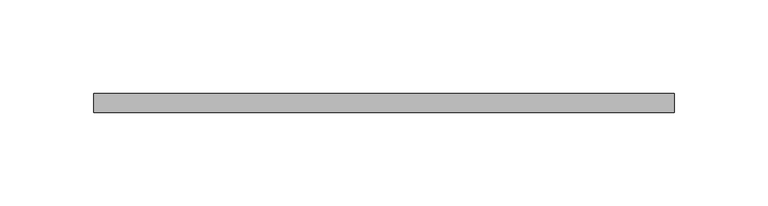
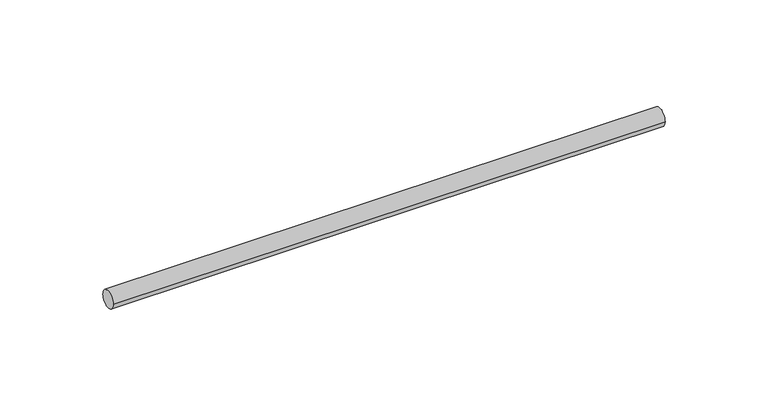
"""IFC4 building model written with IfcOpenShell, lengths in millimetres: valve geometry, Superfix Threaded Rod (used for clamps) : Threaded Rod  Extra  - 1000 mm (used for clamps)."""

from ifc_helpers import new_model, si_unit, point, frame, origin, origin_2d, place, context, project, spatial, circle_curve, trimmed, segment, composite_curve, outline, extrude, source, transform, mapped, element, save


def valve_7bf5ca46(model_context):
    return source(origin(), model_context, "Body", "SweptSolid", [
        extrude(outline(composite_curve([segment(trimmed(circle_curve(origin_2d(), 5.0), [point((-5.0, 0.0))], [point((5.0, 0.0))], False, "CARTESIAN"), True, "CONTINUOUS"), segment(trimmed(circle_curve(origin_2d(), 5.0), [point((5.0, 0.0))], [point((-5.0, 0.0))], False, "CARTESIAN"), True, "CONTINUOUS")], self_intersect=False)), frame((-10.0, 0.0, 0.0), z_axis=(1.0, 0.0, 0.0), x_axis=(0.0, 1.0, 0.0)), (0.0, 0.0, 1.0), 309.5002332),
    ])


if __name__ == "__main__":
    model = new_model("IFC4")
    model_context = context("Model", 3, world=origin())
    ifc_project = project(units=[si_unit("LENGTHUNIT", "METRE", prefix="MILLI")], contexts=[model_context])
    site = spatial("IfcSite", under=ifc_project)
    building = spatial("IfcBuilding", under=site)
    placement = place(None, origin())
    valve_shape = valve_7bf5ca46(model_context)
    element("IfcValve", 1, ObjectType="Superfix Threaded Rod (used for clamps) : Threaded Rod  Extra  - 1000 mm (used for clamps)", at=placement, inside=building, context=model_context, shape_type="MappedRepresentation", body=[
        mapped(valve_shape, transform((0.0, 0.0, 0.0), x_axis=(1.0, 0.0, 0.0), y_axis=(0.0, 1.0, 0.0), z_axis=(0.0, 0.0, 1.0))),
    ])
    save(model, "model.ifc")
